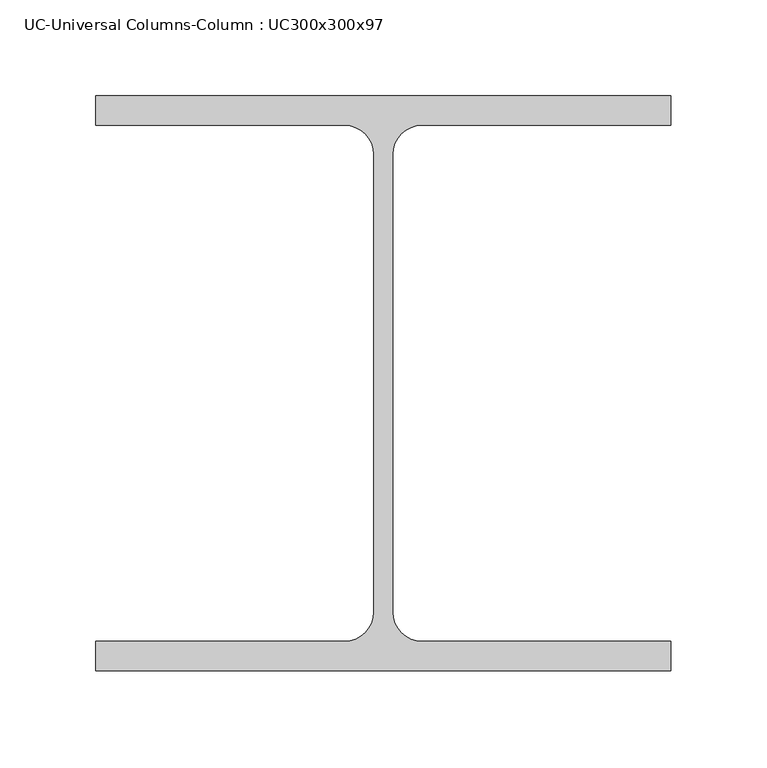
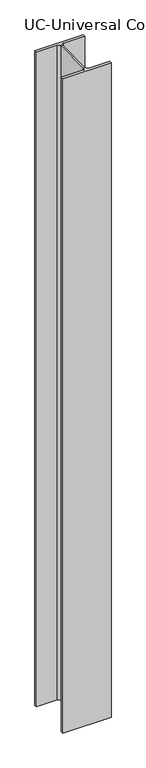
"""IFC4 building model written with IfcOpenShell, lengths in millimetres: column geometry, UC-Universal Columns-Column : UC300x300x97."""

from ifc_helpers import new_model, si_unit, point, frame, frame_2d, origin, place, context, project, spatial, polyline, circle_curve, trimmed, segment, composite_curve, outline, extrude, source, transform, mapped, element, save


def uc_universal_columns_column_uc300x300x97_0dd95e36(model_context):
    return source(origin(), model_context, "Body", "SweptSolid", [
        extrude(outline(composite_curve([segment(polyline([(150.0, 150.0), (150.0, 134.6), (20.15, 134.6)]), True, "CONTINUOUS"), segment(trimmed(circle_curve(frame_2d((20.15, 119.4)), 15.2), [point((20.15, 134.6))], [point((4.95, 119.4))], True, "CARTESIAN"), True, "CONTINUOUS"), segment(polyline([(4.95, 119.4), (4.95, -119.4)]), True, "CONTINUOUS"), segment(trimmed(circle_curve(frame_2d((20.15, -119.4)), 15.2), [point((4.95, -119.4))], [point((20.15, -134.6))], True, "CARTESIAN"), True, "CONTINUOUS"), segment(polyline([(20.15, -134.6), (150.0, -134.6), (150.0, -150.0), (-150.0, -150.0), (-150.0, -134.6), (-20.15, -134.6)]), True, "CONTINUOUS"), segment(trimmed(circle_curve(frame_2d((-20.15, -119.4)), 15.2), [point((-20.15, -134.6))], [point((-4.95, -119.4))], True, "CARTESIAN"), True, "CONTINUOUS"), segment(polyline([(-4.95, -119.4), (-4.95, 119.4)]), True, "CONTINUOUS"), segment(trimmed(circle_curve(frame_2d((-20.15, 119.4)), 15.2), [point((-4.95, 119.4))], [point((-20.15, 134.6))], True, "CARTESIAN"), True, "CONTINUOUS"), segment(polyline([(-20.15, 134.6), (-150.0, 134.6), (-150.0, 150.0), (150.0, 150.0)]), True, "CONTINUOUS")], self_intersect=False)), frame((0.0, 0.0, 33660.0), z_axis=(0.0, 0.0, 1.0), x_axis=(1.0, 0.0, 0.0)), (0.0, 0.0, 1.0), 4300.0),
    ])


if __name__ == "__main__":
    model = new_model("IFC4")
    model_context = context("Model", 3, world=origin())
    ifc_project = project(units=[si_unit("LENGTHUNIT", "METRE", prefix="MILLI")], contexts=[model_context])
    site = spatial("IfcSite", under=ifc_project)
    building = spatial("IfcBuilding", under=site)
    placement = place(None, origin())
    uc_universal_columns_column_uc300x300x97_shape = uc_universal_columns_column_uc300x300x97_0dd95e36(model_context)
    element("IfcColumn", 1, ObjectType="UC-Universal Columns-Column : UC300x300x97", at=placement, inside=building, context=model_context, shape_type="MappedRepresentation", body=[
        mapped(uc_universal_columns_column_uc300x300x97_shape, transform((0.0, 0.0, 0.0), x_axis=(1.0, 0.0, 0.0), y_axis=(0.0, 1.0, 0.0), z_axis=(0.0, 0.0, 1.0))),
    ])
    save(model, "model.ifc")
